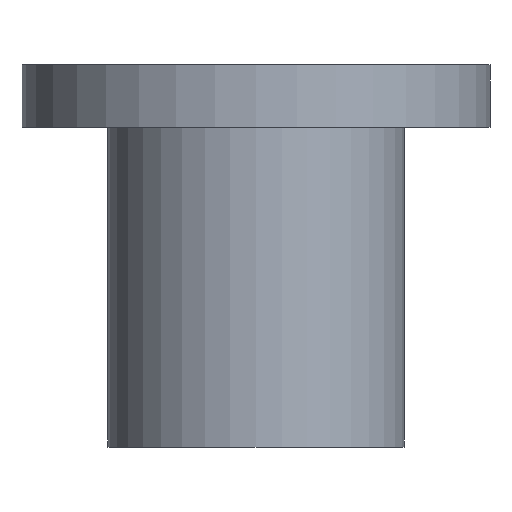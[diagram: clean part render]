
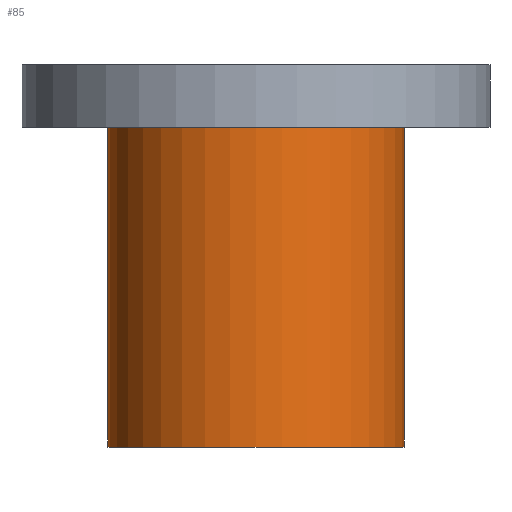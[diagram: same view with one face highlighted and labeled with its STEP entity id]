
A CAD part, front view. The second image highlights one B-rep face of the part: STEP entity #85.
In plain terms, the highlighted cylindrical face has radius 31 mm (diameter 62 mm), a partial arc.
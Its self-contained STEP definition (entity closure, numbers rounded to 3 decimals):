
#44=CARTESIAN_POINT('',(0.0,0.0,0.0));
#45=DIRECTION('',(0.0,0.0,1.0));
#46=DIRECTION('',(-1.0,0.0,0.0));
#47=AXIS2_PLACEMENT_3D('',#44,#45,#46);
#48=CYLINDRICAL_SURFACE('',#47,31.0);
#49=CARTESIAN_POINT('',(-31.0,0.,-40.0));
#50=VERTEX_POINT('',#49);
#51=CARTESIAN_POINT('',(-31.0,0.,27.0));
#52=VERTEX_POINT('',#51);
#53=CARTESIAN_POINT('',(-31.0,0.,-40.0));
#54=DIRECTION('',(0.0,0.0,1.0));
#55=VECTOR('',#54,67.0);
#56=LINE('',#53,#55);
#57=EDGE_CURVE('',#50,#52,#56,.T.);
#58=ORIENTED_EDGE('',*,*,#57,.F.);
#59=CARTESIAN_POINT('',(31.0,0.,-40.0));
#60=VERTEX_POINT('',#59);
#61=CARTESIAN_POINT('',(0.0,0.0,-40.0));
#62=DIRECTION('',(0.0,0.0,1.0));
#63=DIRECTION('',(-1.0,0.0,0.0));
#64=AXIS2_PLACEMENT_3D('',#61,#62,#63);
#65=CIRCLE('',#64,31.0);
#66=EDGE_CURVE('',#50,#60,#65,.T.);
#67=ORIENTED_EDGE('',*,*,#66,.T.);
#68=CARTESIAN_POINT('',(31.0,0.,27.0));
#69=VERTEX_POINT('',#68);
#70=CARTESIAN_POINT('',(31.0,0.,27.0));
#71=DIRECTION('',(0.0,0.0,-1.0));
#72=VECTOR('',#71,67.0);
#73=LINE('',#70,#72);
#74=EDGE_CURVE('',#69,#60,#73,.T.);
#75=ORIENTED_EDGE('',*,*,#74,.F.);
#76=CARTESIAN_POINT('',(0.0,0.0,27.0));
#77=DIRECTION('',(0.0,0.0,-1.0));
#78=DIRECTION('',(-1.0,0.0,0.0));
#79=AXIS2_PLACEMENT_3D('',#76,#77,#78);
#80=CIRCLE('',#79,31.0);
#81=EDGE_CURVE('',#69,#52,#80,.T.);
#82=ORIENTED_EDGE('',*,*,#81,.T.);
#83=EDGE_LOOP('',(#58,#67,#75,#82));
#84=FACE_OUTER_BOUND('',#83,.T.);
#85=ADVANCED_FACE('',(#84),#48,.T.);
